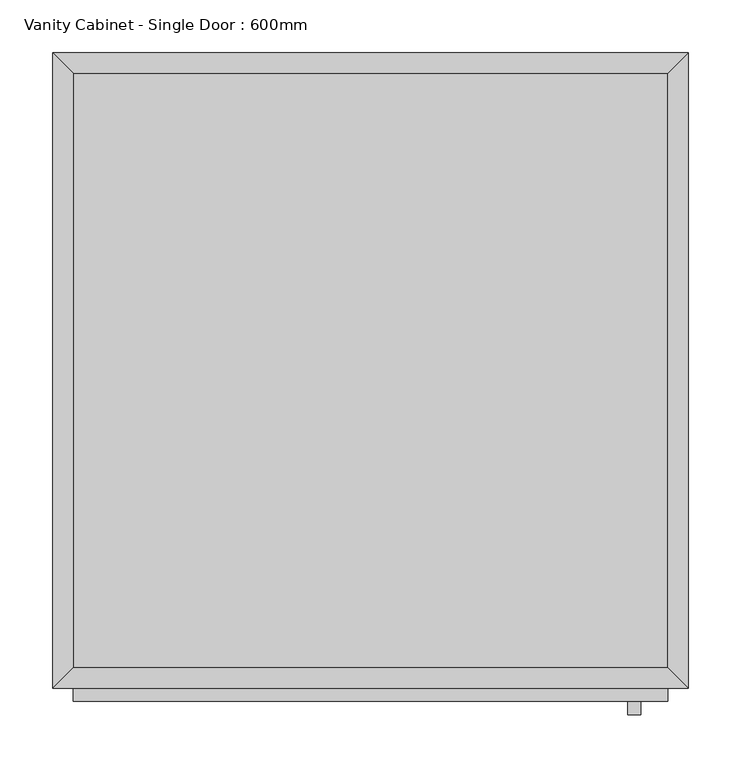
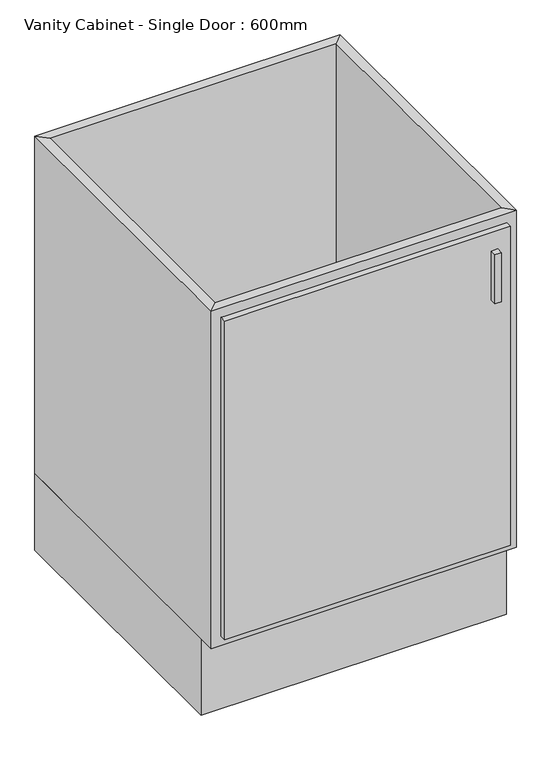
"""IFC4 building model written with IfcOpenShell, lengths in millimetres: furniture geometry, Vanity Cabinet - Single Door : 600mm."""

from ifc_helpers import new_model, si_unit, frame, origin, origin_with_axes, place, context, project, spatial, polyline, outline, extrude, faceted_brep, source, transform, mapped, element, save


def vanity_cabinet_single_door_600mm_90b11e86(model_context):
    return source(origin(), model_context, "Body", "SolidModel", [
        extrude(outline(polyline([(299.6877049, -19.05), (299.6877049, -580.95), (-262.2122951, -580.95), (-262.2122951, -19.05), (299.6877049, -19.05)])), frame((0.0, 0.0, 160.0), z_axis=(0.0, 0.0, 1.0), x_axis=(1.0, 0.0, 0.0)), (0.0, 0.0, 1.0), 19.05),
        faceted_brep([(299.6877049, -580.95, 860.0), (299.6877049, -580.95, 160.0), (-262.2122951, -580.95, 160.0), (-262.2122951, -580.95, 860.0), (318.7377049, -600.0, 860.0), (-281.2622951, -600.0, 860.0), (318.7377049, -600.0, 160.0), (-281.2622951, -600.0, 160.0), (-262.2122951, -19.05, 160.0), (-262.2122951, -19.05, 860.0), (-281.2622951, 0.0, 860.0), (-281.2622951, 0.0, 160.0), (299.6877049, -19.05, 160.0), (299.6877049, -19.05, 860.0), (318.7377049, 0.0, 860.0), (318.7377049, 0.0, 160.0)], [[[0, 1, 2, 3]], [[4, 0, 3, 5]], [[6, 4, 5, 7]], [[1, 6, 7, 2]], [[3, 2, 8, 9]], [[5, 3, 9, 10]], [[7, 5, 10, 11]], [[2, 7, 11, 8]], [[9, 8, 12, 13]], [[10, 9, 13, 14]], [[11, 10, 14, 15]], [[8, 11, 15, 12]], [[13, 12, 1, 0]], [[14, 13, 0, 4]], [[15, 14, 4, 6]], [[12, 15, 6, 1]]]),
        extrude(outline(polyline([(318.7377049, 0.0), (318.7377049, -565.0), (-281.2622951, -565.0), (-281.2622951, 0.0), (318.7377049, 0.0)])), origin_with_axes(), (0.0, 0.0, 1.0), 160.0),
        extrude(outline(polyline([(274.2877049, -625.4), (261.5877049, -625.4), (261.5877049, -612.7), (274.2877049, -612.7), (274.2877049, -625.4)])), frame((0.0, 0.0, 701.25), z_axis=(0.0, 0.0, 1.0), x_axis=(1.0, 0.0, 0.0)), (0.0, 0.0, 1.0), 101.6),
        extrude(outline(polyline([(299.6877049, -612.7), (-262.2122951, -612.7), (-262.2122951, -600.0), (299.6877049, -600.0), (299.6877049, -612.7)])), frame((0.0, 0.0, 179.05), z_axis=(0.0, 0.0, 1.0), x_axis=(1.0, 0.0, 0.0)), (0.0, 0.0, 1.0), 661.9),
    ])


if __name__ == "__main__":
    model = new_model("IFC4")
    model_context = context("Model", 3, world=origin())
    ifc_project = project(units=[si_unit("LENGTHUNIT", "METRE", prefix="MILLI")], contexts=[model_context])
    site = spatial("IfcSite", under=ifc_project)
    building = spatial("IfcBuilding", under=site)
    placement = place(None, origin())
    vanity_cabinet_single_door_600mm_shape = vanity_cabinet_single_door_600mm_90b11e86(model_context)
    element("IfcFurniture", 1, ObjectType="Vanity Cabinet - Single Door : 600mm", at=placement, inside=building, context=model_context, shape_type="MappedRepresentation", body=[
        mapped(vanity_cabinet_single_door_600mm_shape, transform((0.0, 0.0, 0.0), x_axis=(1.0, 0.0, 0.0), y_axis=(0.0, 1.0, 0.0), z_axis=(0.0, 0.0, 1.0))),
    ])
    save(model, "model.ifc")
